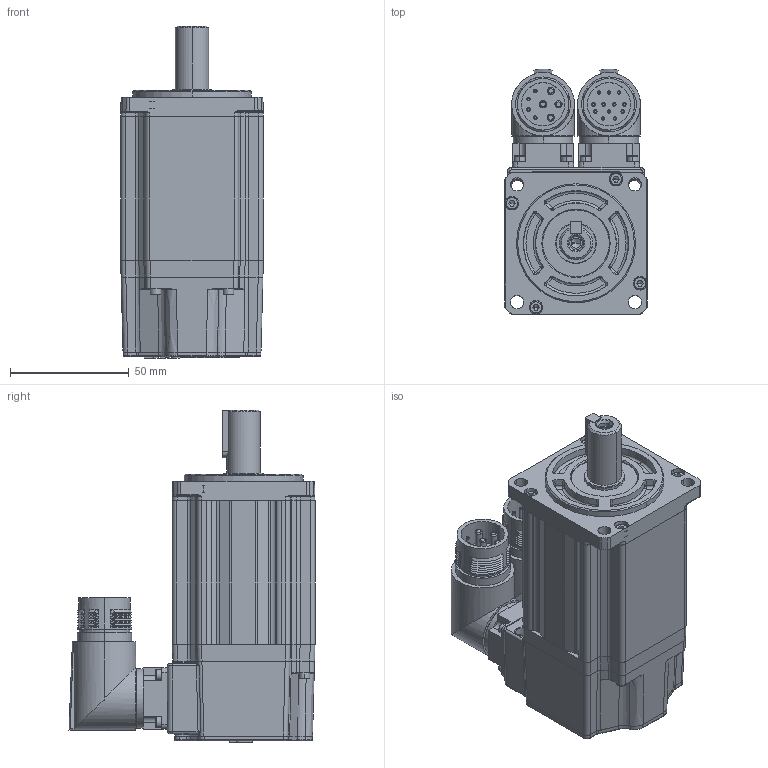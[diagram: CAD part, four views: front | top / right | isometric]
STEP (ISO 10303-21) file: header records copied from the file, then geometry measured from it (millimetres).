
FILE_DESCRIPTION (( 'STEP AP203' ), '1' );
FILE_NAME ('MC20-060-3L30-N401-0¡õPK-NNNN.STEP', '2025-05-04T11:11:08', ( '' ), ( '' ), 'SwSTEP 2.0', 'SolidWorks 2014', '' );
FILE_SCHEMA (( 'CONFIG_CONTROL_DESIGN' ));
Length unit declared in the file: millimetre
Products named in the file (1): MC20-060-3L30-N401-0¡õPK-NNNN
Bounding box: 60 x 103.37 x 139.5 mm (x, y, z)
Volume: 408963.4 mm3; surface area: 92126.5 mm2
Topology: 24 solids, 24 shells, 1882 faces, 4466 edges, 2699 vertices
Faces by surface type: plane 747, cylinder 516, cone 342, bspline 131, torus 126, sphere 20
Entity records: 56224 total; most frequent: CARTESIAN_POINT 13739, DIRECTION 8912, ORIENTED_EDGE 8784, EDGE_CURVE 4392, AXIS2_PLACEMENT_3D 3385, VERTEX_POINT 2699, LINE 2142, VECTOR 2142
